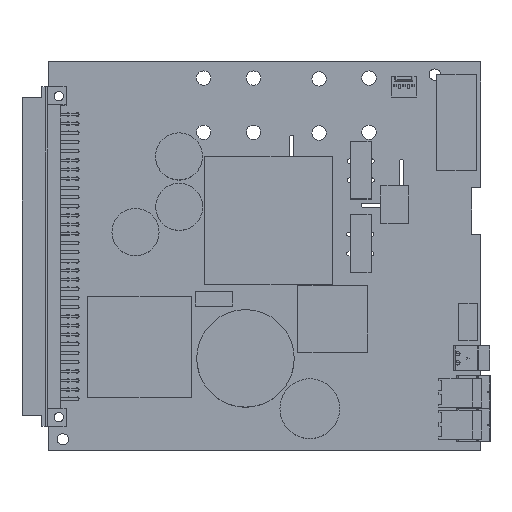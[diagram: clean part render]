
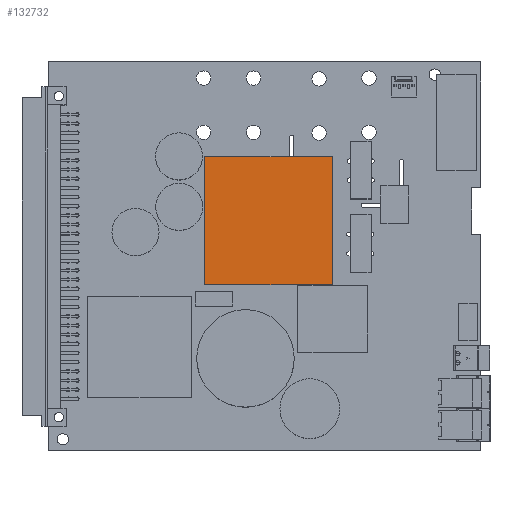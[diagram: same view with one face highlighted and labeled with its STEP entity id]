
A CAD part, top view. The second image highlights one B-rep face of the part: STEP entity #132732.
In plain terms, the highlighted planar face has unit normal (0, 0, 1).
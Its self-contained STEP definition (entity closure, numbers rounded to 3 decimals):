
#132418 = VERTEX_POINT('',#132419);
#132419 = CARTESIAN_POINT('',(-17.65,-17.7,25.));
#132426 = PLANE('',#132427);
#132427 = AXIS2_PLACEMENT_3D('',#132428,#132429,#132430);
#132428 = CARTESIAN_POINT('',(-17.65,-17.7,0.));
#132429 = DIRECTION('',(-1.,0.,0.));
#132430 = DIRECTION('',(0.,1.,0.));
#132438 = PLANE('',#132439);
#132439 = AXIS2_PLACEMENT_3D('',#132440,#132441,#132442);
#132440 = CARTESIAN_POINT('',(17.65,-17.7,0.));
#132441 = DIRECTION('',(0.,-1.,0.));
#132442 = DIRECTION('',(-1.,0.,0.));
#132450 = EDGE_CURVE('',#132418,#132451,#132453,.T.);
#132451 = VERTEX_POINT('',#132452);
#132452 = CARTESIAN_POINT('',(-17.65,17.7,25.));
#132453 = SURFACE_CURVE('',#132454,(#132458,#132465),.PCURVE_S1.);
#132454 = LINE('',#132455,#132456);
#132455 = CARTESIAN_POINT('',(-17.65,-17.7,25.));
#132456 = VECTOR('',#132457,1.);
#132457 = DIRECTION('',(0.,1.,0.));
#132458 = PCURVE('',#132426,#132459);
#132459 = DEFINITIONAL_REPRESENTATION('',(#132460),#132464);
#132460 = LINE('',#132461,#132462);
#132461 = CARTESIAN_POINT('',(0.,-25.));
#132462 = VECTOR('',#132463,1.);
#132463 = DIRECTION('',(1.,0.));
#132464 = ( GEOMETRIC_REPRESENTATION_CONTEXT(2) 
PARAMETRIC_REPRESENTATION_CONTEXT() REPRESENTATION_CONTEXT('2D SPACE',''
  ) );
#132465 = PCURVE('',#132466,#132471);
#132466 = PLANE('',#132467);
#132467 = AXIS2_PLACEMENT_3D('',#132468,#132469,#132470);
#132468 = CARTESIAN_POINT('',(-17.65,-17.7,25.));
#132469 = DIRECTION('',(0.,0.,1.));
#132470 = DIRECTION('',(1.,0.,0.));
#132471 = DEFINITIONAL_REPRESENTATION('',(#132472),#132476);
#132472 = LINE('',#132473,#132474);
#132473 = CARTESIAN_POINT('',(0.,0.));
#132474 = VECTOR('',#132475,1.);
#132475 = DIRECTION('',(0.,1.));
#132476 = ( GEOMETRIC_REPRESENTATION_CONTEXT(2) 
PARAMETRIC_REPRESENTATION_CONTEXT() REPRESENTATION_CONTEXT('2D SPACE',''
  ) );
#132494 = PLANE('',#132495);
#132495 = AXIS2_PLACEMENT_3D('',#132496,#132497,#132498);
#132496 = CARTESIAN_POINT('',(-17.65,17.7,0.));
#132497 = DIRECTION('',(0.,1.,0.));
#132498 = DIRECTION('',(1.,0.,0.));
#132536 = EDGE_CURVE('',#132451,#132537,#132539,.T.);
#132537 = VERTEX_POINT('',#132538);
#132538 = CARTESIAN_POINT('',(17.65,17.7,25.));
#132539 = SURFACE_CURVE('',#132540,(#132544,#132551),.PCURVE_S1.);
#132540 = LINE('',#132541,#132542);
#132541 = CARTESIAN_POINT('',(-17.65,17.7,25.));
#132542 = VECTOR('',#132543,1.);
#132543 = DIRECTION('',(1.,0.,0.));
#132544 = PCURVE('',#132494,#132545);
#132545 = DEFINITIONAL_REPRESENTATION('',(#132546),#132550);
#132546 = LINE('',#132547,#132548);
#132547 = CARTESIAN_POINT('',(0.,-25.));
#132548 = VECTOR('',#132549,1.);
#132549 = DIRECTION('',(1.,0.));
#132550 = ( GEOMETRIC_REPRESENTATION_CONTEXT(2) 
PARAMETRIC_REPRESENTATION_CONTEXT() REPRESENTATION_CONTEXT('2D SPACE',''
  ) );
#132551 = PCURVE('',#132466,#132552);
#132552 = DEFINITIONAL_REPRESENTATION('',(#132553),#132557);
#132553 = LINE('',#132554,#132555);
#132554 = CARTESIAN_POINT('',(0.,35.4));
#132555 = VECTOR('',#132556,1.);
#132556 = DIRECTION('',(1.,0.));
#132557 = ( GEOMETRIC_REPRESENTATION_CONTEXT(2) 
PARAMETRIC_REPRESENTATION_CONTEXT() REPRESENTATION_CONTEXT('2D SPACE',''
  ) );
#132575 = PLANE('',#132576);
#132576 = AXIS2_PLACEMENT_3D('',#132577,#132578,#132579);
#132577 = CARTESIAN_POINT('',(17.65,17.7,0.));
#132578 = DIRECTION('',(1.,0.,0.));
#132579 = DIRECTION('',(0.,-1.,0.));
#132612 = EDGE_CURVE('',#132537,#132613,#132615,.T.);
#132613 = VERTEX_POINT('',#132614);
#132614 = CARTESIAN_POINT('',(17.65,-17.7,25.));
#132615 = SURFACE_CURVE('',#132616,(#132620,#132627),.PCURVE_S1.);
#132616 = LINE('',#132617,#132618);
#132617 = CARTESIAN_POINT('',(17.65,17.7,25.));
#132618 = VECTOR('',#132619,1.);
#132619 = DIRECTION('',(0.,-1.,0.));
#132620 = PCURVE('',#132575,#132621);
#132621 = DEFINITIONAL_REPRESENTATION('',(#132622),#132626);
#132622 = LINE('',#132623,#132624);
#132623 = CARTESIAN_POINT('',(0.,-25.));
#132624 = VECTOR('',#132625,1.);
#132625 = DIRECTION('',(1.,0.));
#132626 = ( GEOMETRIC_REPRESENTATION_CONTEXT(2) 
PARAMETRIC_REPRESENTATION_CONTEXT() REPRESENTATION_CONTEXT('2D SPACE',''
  ) );
#132627 = PCURVE('',#132466,#132628);
#132628 = DEFINITIONAL_REPRESENTATION('',(#132629),#132633);
#132629 = LINE('',#132630,#132631);
#132630 = CARTESIAN_POINT('',(35.3,35.4));
#132631 = VECTOR('',#132632,1.);
#132632 = DIRECTION('',(0.,-1.));
#132633 = ( GEOMETRIC_REPRESENTATION_CONTEXT(2) 
PARAMETRIC_REPRESENTATION_CONTEXT() REPRESENTATION_CONTEXT('2D SPACE',''
  ) );
#132683 = EDGE_CURVE('',#132613,#132418,#132684,.T.);
#132684 = SURFACE_CURVE('',#132685,(#132689,#132696),.PCURVE_S1.);
#132685 = LINE('',#132686,#132687);
#132686 = CARTESIAN_POINT('',(17.65,-17.7,25.));
#132687 = VECTOR('',#132688,1.);
#132688 = DIRECTION('',(-1.,0.,0.));
#132689 = PCURVE('',#132438,#132690);
#132690 = DEFINITIONAL_REPRESENTATION('',(#132691),#132695);
#132691 = LINE('',#132692,#132693);
#132692 = CARTESIAN_POINT('',(0.,-25.));
#132693 = VECTOR('',#132694,1.);
#132694 = DIRECTION('',(1.,0.));
#132695 = ( GEOMETRIC_REPRESENTATION_CONTEXT(2) 
PARAMETRIC_REPRESENTATION_CONTEXT() REPRESENTATION_CONTEXT('2D SPACE',''
  ) );
#132696 = PCURVE('',#132466,#132697);
#132697 = DEFINITIONAL_REPRESENTATION('',(#132698),#132702);
#132698 = LINE('',#132699,#132700);
#132699 = CARTESIAN_POINT('',(35.3,0.));
#132700 = VECTOR('',#132701,1.);
#132701 = DIRECTION('',(-1.,0.));
#132702 = ( GEOMETRIC_REPRESENTATION_CONTEXT(2) 
PARAMETRIC_REPRESENTATION_CONTEXT() REPRESENTATION_CONTEXT('2D SPACE',''
  ) );
#132732 = ADVANCED_FACE('',(#132733),#132466,.T.);
#132733 = FACE_BOUND('',#132734,.F.);
#132734 = EDGE_LOOP('',(#132735,#132736,#132737,#132738));
#132735 = ORIENTED_EDGE('',*,*,#132450,.T.);
#132736 = ORIENTED_EDGE('',*,*,#132536,.T.);
#132737 = ORIENTED_EDGE('',*,*,#132612,.T.);
#132738 = ORIENTED_EDGE('',*,*,#132683,.T.);
